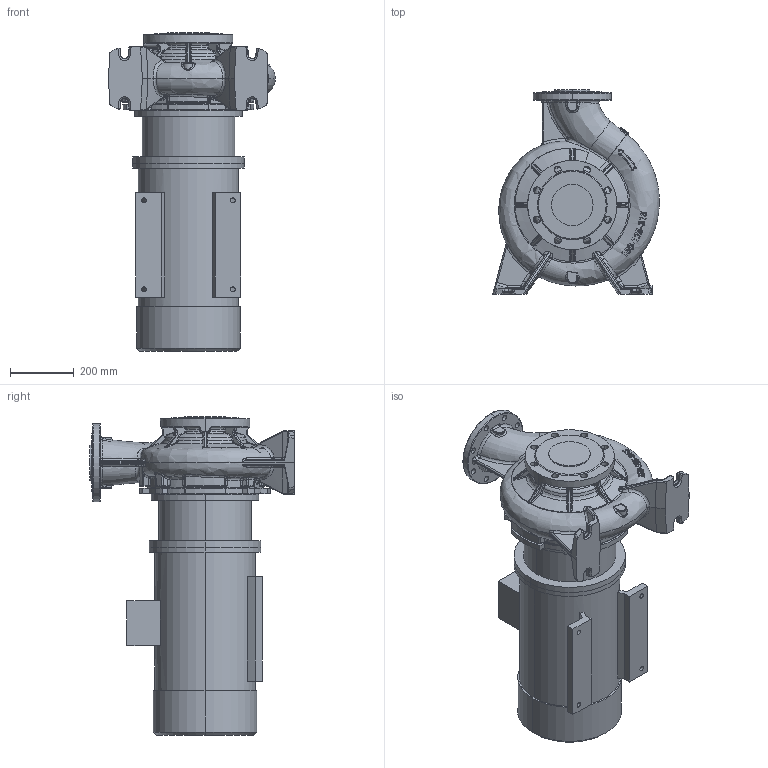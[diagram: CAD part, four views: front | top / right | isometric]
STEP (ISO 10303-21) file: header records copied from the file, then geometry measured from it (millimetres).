
FILE_DESCRIPTION (( 'STEP AP214' ), '1' );
FILE_NAME ('KRM 150-125-315-4-22.STEP', '2026-04-17T13:35:56', ( '' ), ( '' ), 'SwSTEP 2.0', 'SolidWorks 2016', '' );
FILE_SCHEMA (( 'AUTOMOTIVE_DESIGN' ));
Length unit declared in the file: millimetre
Products named in the file (1): KRM 150-125-315-4-22
Bounding box: 522.98 x 642 x 1000.3 mm (x, y, z)
Volume: 96936958.8 mm3; surface area: 2745526.7 mm2
Topology: 4 solids, 4 shells, 1443 faces, 3511 edges, 2081 vertices
Faces by surface type: bspline 625, cylinder 306, plane 271, torus 111, cone 91, sphere 39
Entity records: 172549 total; most frequent: CARTESIAN_POINT 127814, ORIENTED_EDGE 6950, DIRECTION 4785, EDGE_CURVE 3475, VERTEX_POINT 2081, AXIS2_PLACEMENT_3D 2009, EDGE_LOOP 1524, UNCERTAINTY_MEASURE_WITH_UNIT 1449
